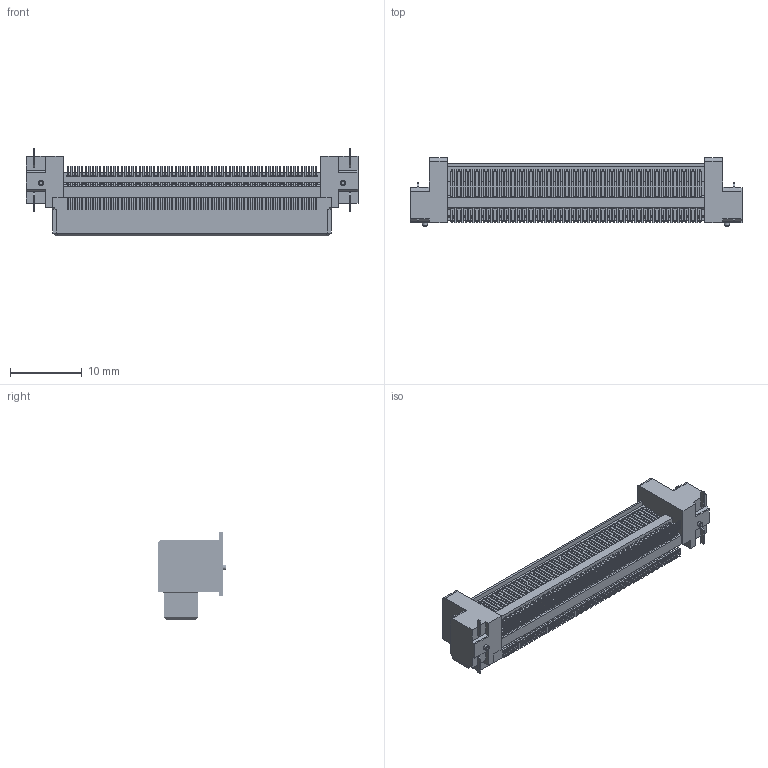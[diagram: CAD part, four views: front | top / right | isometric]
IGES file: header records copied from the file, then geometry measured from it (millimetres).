
Start section: Elysium IGES Interface
Global section: file name: 54HC:\Users\1314\Desktop\temp\回覧用-一時的\DT11-140L.igs; native system: CoCreate Modeling 17.0B  09-Oct-2010; preprocessor: CoCreate IGES_3D V2.2; author: Unknown; organization: Unknown; date: 20170519.132330; units: millimetre
Bounding box: 46.12 x 9.5 x 12.2 mm (x, y, z)
Volume: 1884.6 mm3; surface area: 2906.2 mm2
Topology: 1 solids, 1 shells, 8164 faces, 22903 edges, 14884 vertices
Faces by surface type: bspline 8164
